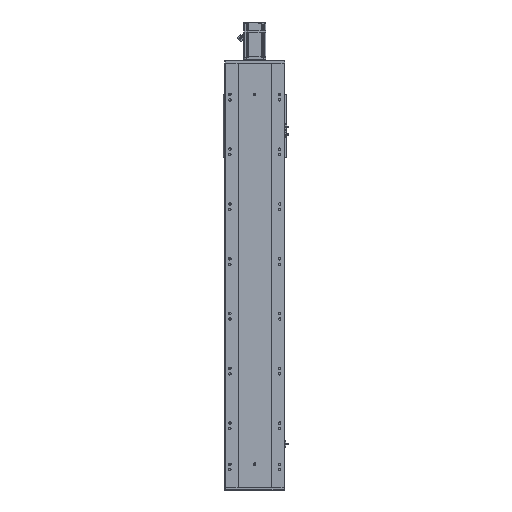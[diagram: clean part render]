
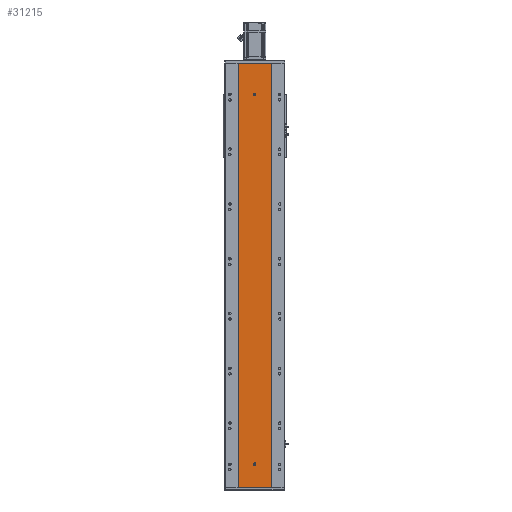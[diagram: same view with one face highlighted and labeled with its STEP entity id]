
A CAD part, front view. The second image highlights one B-rep face of the part: STEP entity #31215.
In plain terms, the highlighted planar face has unit normal (0, -1, 0).
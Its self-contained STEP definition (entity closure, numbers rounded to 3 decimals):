
#875 = LINE ( 'NONE', #49624, #73150 ) ;
#2263 = ORIENTED_EDGE ( 'NONE', *, *, #56716, .F. ) ;
#3317 = AXIS2_PLACEMENT_3D ( 'NONE', #12380, #69239, #30302 ) ;
#3870 = DIRECTION ( 'NONE',  ( 0., 0., -1. ) ) ;
#4075 = DIRECTION ( 'NONE',  ( 1., 0., 0. ) ) ;
#6107 = CARTESIAN_POINT ( 'NONE',  ( 0., 0., 1436. ) ) ;
#6775 = DIRECTION ( 'NONE',  ( 0., 0., -1. ) ) ;
#8107 = EDGE_LOOP ( 'NONE', ( #2263, #23853 ) ) ;
#8555 = CARTESIAN_POINT ( 'NONE',  ( -4., 0., 84.5 ) ) ;
#8710 = ORIENTED_EDGE ( 'NONE', *, *, #34809, .T. ) ;
#9933 = EDGE_CURVE ( 'NONE', #35465, #51395, #57953, .T. ) ;
#11873 = VECTOR ( 'NONE', #31818, 1000. ) ;
#12182 = CARTESIAN_POINT ( 'NONE',  ( -60., 0., 0. ) ) ;
#12380 = CARTESIAN_POINT ( 'NONE',  ( -60., 0., 1550. ) ) ;
#12866 = CIRCLE ( 'NONE', #43249, 4. ) ;
#13102 = CARTESIAN_POINT ( 'NONE',  ( 60., 0., 1550. ) ) ;
#15480 = ORIENTED_EDGE ( 'NONE', *, *, #28250, .F. ) ;
#16275 = EDGE_CURVE ( 'NONE', #60882, #62422, #50419, .T. ) ;
#18898 = LINE ( 'NONE', #8555, #47482 ) ;
#19452 = EDGE_CURVE ( 'NONE', #38922, #57461, #66407, .T. ) ;
#21045 = DIRECTION ( 'NONE',  ( 0., -1., 0. ) ) ;
#21295 = CARTESIAN_POINT ( 'NONE',  ( 0., 0., 87.5 ) ) ;
#22954 = DIRECTION ( 'NONE',  ( 0., 0., -1. ) ) ;
#23175 = CARTESIAN_POINT ( 'NONE',  ( -60., 0., 1550. ) ) ;
#23611 = CARTESIAN_POINT ( 'NONE',  ( 0., 0., 1432. ) ) ;
#23666 = DIRECTION ( 'NONE',  ( 0., -1., 0. ) ) ;
#23853 = ORIENTED_EDGE ( 'NONE', *, *, #68613, .F. ) ;
#23869 = VECTOR ( 'NONE', #4075, 1000. ) ;
#25228 = LINE ( 'NONE', #13102, #53815 ) ;
#28250 = EDGE_CURVE ( 'NONE', #57461, #35465, #18898, .T. ) ;
#28693 = CARTESIAN_POINT ( 'NONE',  ( 0., 0., 1436. ) ) ;
#29270 = FACE_BOUND ( 'NONE', #8107, .T. ) ;
#29686 = CIRCLE ( 'NONE', #38169, 4. ) ;
#29973 = EDGE_CURVE ( 'NONE', #49867, #38922, #875, .T. ) ;
#30302 = DIRECTION ( 'NONE',  ( 0., 0., 1. ) ) ;
#31215 = ADVANCED_FACE ( 'NONE', ( #29270, #63182, #39054 ), #41274, .F. ) ;
#31818 = DIRECTION ( 'NONE',  ( 1., 0., 0. ) ) ;
#32177 = DIRECTION ( 'NONE',  ( 0., -1., 0. ) ) ;
#32734 = ORIENTED_EDGE ( 'NONE', *, *, #9933, .F. ) ;
#33429 = VECTOR ( 'NONE', #65149, 1000. ) ;
#34809 = EDGE_CURVE ( 'NONE', #62422, #61860, #42204, .T. ) ;
#34994 = DIRECTION ( 'NONE',  ( 0., -1., 0. ) ) ;
#35184 = CIRCLE ( 'NONE', #47875, 4. ) ;
#35465 = VERTEX_POINT ( 'NONE', #68868 ) ;
#36479 = DIRECTION ( 'NONE',  ( 0., 0., -1. ) ) ;
#37818 = CARTESIAN_POINT ( 'NONE',  ( -60., 0., 0. ) ) ;
#38169 = AXIS2_PLACEMENT_3D ( 'NONE', #6107, #34994, #40990 ) ;
#38365 = DIRECTION ( 'NONE',  ( 0., 0., 1. ) ) ;
#38922 = VERTEX_POINT ( 'NONE', #40238 ) ;
#39054 = FACE_OUTER_BOUND ( 'NONE', #53239, .T. ) ;
#39825 = CARTESIAN_POINT ( 'NONE',  ( 60., 0., 1550. ) ) ;
#40238 = CARTESIAN_POINT ( 'NONE',  ( 4., 0., 87.5 ) ) ;
#40668 = DIRECTION ( 'NONE',  ( 0., -1., 0. ) ) ;
#40990 = DIRECTION ( 'NONE',  ( 0., 0., -1. ) ) ;
#41274 = PLANE ( 'NONE',  #3317 ) ;
#42204 = LINE ( 'NONE', #37818, #11873 ) ;
#43249 = AXIS2_PLACEMENT_3D ( 'NONE', #57378, #23666, #6775 ) ;
#44289 = EDGE_LOOP ( 'NONE', ( #51271, #72824, #32734, #15480, #62588 ) ) ;
#44332 = AXIS2_PLACEMENT_3D ( 'NONE', #54924, #32177, #55922 ) ;
#47482 = VECTOR ( 'NONE', #54655, 1000. ) ;
#47875 = AXIS2_PLACEMENT_3D ( 'NONE', #28693, #40668, #22954 ) ;
#49371 = CARTESIAN_POINT ( 'NONE',  ( 0., 0., 80.5 ) ) ;
#49489 = AXIS2_PLACEMENT_3D ( 'NONE', #21295, #21045, #3870 ) ;
#49624 = CARTESIAN_POINT ( 'NONE',  ( 4., 0., 84.5 ) ) ;
#49867 = VERTEX_POINT ( 'NONE', #71200 ) ;
#50419 = LINE ( 'NONE', #53436, #33429 ) ;
#51271 = ORIENTED_EDGE ( 'NONE', *, *, #29973, .F. ) ;
#51395 = VERTEX_POINT ( 'NONE', #49371 ) ;
#53239 = EDGE_LOOP ( 'NONE', ( #8710, #53534, #70188, #57008 ) ) ;
#53436 = CARTESIAN_POINT ( 'NONE',  ( -60., 0., 1550. ) ) ;
#53534 = ORIENTED_EDGE ( 'NONE', *, *, #68794, .F. ) ;
#53815 = VECTOR ( 'NONE', #36479, 1000. ) ;
#54655 = DIRECTION ( 'NONE',  ( 0., 0., -1. ) ) ;
#54924 = CARTESIAN_POINT ( 'NONE',  ( 0., 0., 84.5 ) ) ;
#55003 = EDGE_CURVE ( 'NONE', #60882, #71541, #63156, .T. ) ;
#55922 = DIRECTION ( 'NONE',  ( 0., 0., -1. ) ) ;
#56263 = VERTEX_POINT ( 'NONE', #57215 ) ;
#56716 = EDGE_CURVE ( 'NONE', #72740, #56263, #35184, .T. ) ;
#57008 = ORIENTED_EDGE ( 'NONE', *, *, #16275, .T. ) ;
#57215 = CARTESIAN_POINT ( 'NONE',  ( 0., 0., 1440. ) ) ;
#57378 = CARTESIAN_POINT ( 'NONE',  ( 0., 0., 84.5 ) ) ;
#57461 = VERTEX_POINT ( 'NONE', #70831 ) ;
#57953 = CIRCLE ( 'NONE', #44332, 4. ) ;
#60882 = VERTEX_POINT ( 'NONE', #23175 ) ;
#60899 = EDGE_CURVE ( 'NONE', #51395, #49867, #12866, .T. ) ;
#61860 = VERTEX_POINT ( 'NONE', #66920 ) ;
#62422 = VERTEX_POINT ( 'NONE', #12182 ) ;
#62588 = ORIENTED_EDGE ( 'NONE', *, *, #19452, .F. ) ;
#63156 = LINE ( 'NONE', #66632, #23869 ) ;
#63182 = FACE_BOUND ( 'NONE', #44289, .T. ) ;
#65149 = DIRECTION ( 'NONE',  ( 0., 0., -1. ) ) ;
#66407 = CIRCLE ( 'NONE', #49489, 4. ) ;
#66632 = CARTESIAN_POINT ( 'NONE',  ( -60., 0., 1550. ) ) ;
#66920 = CARTESIAN_POINT ( 'NONE',  ( 60., 0., 0. ) ) ;
#68613 = EDGE_CURVE ( 'NONE', #56263, #72740, #29686, .T. ) ;
#68794 = EDGE_CURVE ( 'NONE', #71541, #61860, #25228, .T. ) ;
#68868 = CARTESIAN_POINT ( 'NONE',  ( -4., 0., 84.5 ) ) ;
#69239 = DIRECTION ( 'NONE',  ( 0., 1., 0. ) ) ;
#70188 = ORIENTED_EDGE ( 'NONE', *, *, #55003, .F. ) ;
#70831 = CARTESIAN_POINT ( 'NONE',  ( -4., 0., 87.5 ) ) ;
#71200 = CARTESIAN_POINT ( 'NONE',  ( 4., 0., 84.5 ) ) ;
#71541 = VERTEX_POINT ( 'NONE', #39825 ) ;
#72740 = VERTEX_POINT ( 'NONE', #23611 ) ;
#72824 = ORIENTED_EDGE ( 'NONE', *, *, #60899, .F. ) ;
#73150 = VECTOR ( 'NONE', #38365, 1000. ) ;
